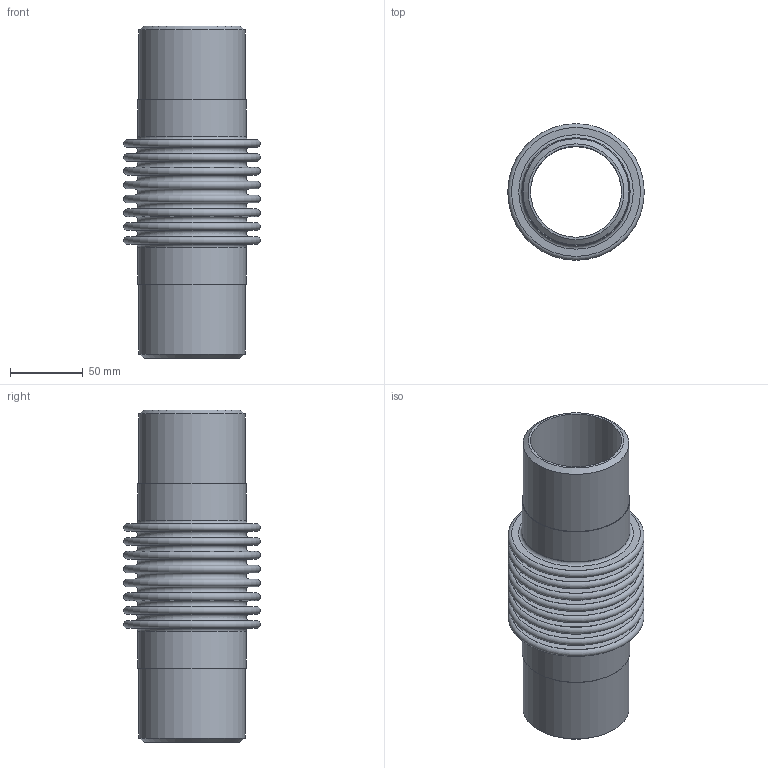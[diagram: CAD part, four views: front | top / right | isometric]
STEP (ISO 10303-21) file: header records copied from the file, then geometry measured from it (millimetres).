
FILE_DESCRIPTION(/* description */ (''),/* implementation_level */ '2;1');
FILE_NAME(/* name */ 'PIPE- 2.5 - 85 Psig.stp',/* time_stamp */ '2026-07-23T09:23:59-05:00',/* author */ ('jorgef'),/* organization */ (''),/* preprocessor_version */ 'ST-DEVELOPER v20.1',/* originating_system */ 'Autodesk Inventor 2026',/* authorisation */ '');
FILE_SCHEMA (('AUTOMOTIVE_DESIGN { 1 0 10303 214 3 1 1 }'));
Length unit declared in the file: inch
Products named in the file (1): PIPE- 2.5 - 85 PSIG ASSEMBLY PART
Bounding box: 93.98 x 93.98 x 228.6 mm (x, y, z)
Volume: 194712.4 mm3; surface area: 197072.6 mm2
Topology: 3 solids, 3 shells, 82 faces, 132 edges, 88 vertices
Faces by surface type: plane 38, torus 34, cylinder 8, cone 2
Full cylindrical faces by diameter (mm): 62.713 x2, 73.025 x2, 73.66 x2, 74.574 x2
Entity records: 2113 total; most frequent: DIRECTION 420, CARTESIAN_POINT 303, ORIENTED_EDGE 264, AXIS2_PLACEMENT_3D 205, EDGE_CURVE 132, CIRCLE 122, EDGE_LOOP 120, VERTEX_POINT 88
